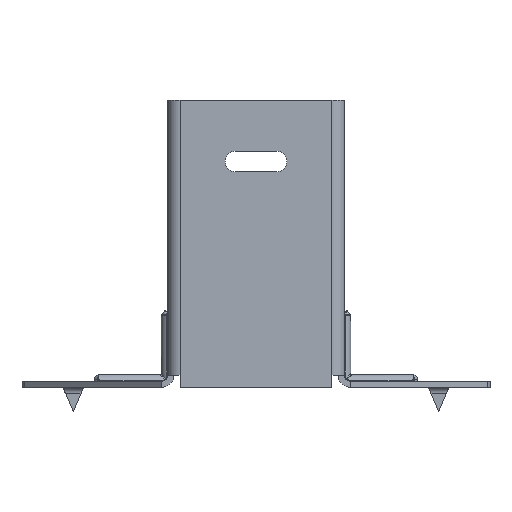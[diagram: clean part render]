
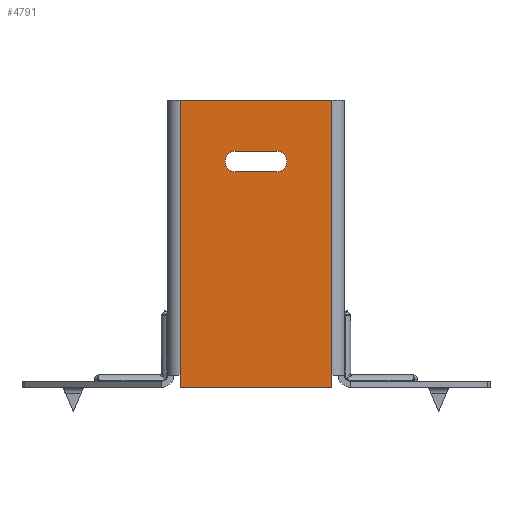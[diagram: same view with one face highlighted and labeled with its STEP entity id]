
A CAD part, front view. The second image highlights one B-rep face of the part: STEP entity #4791.
In plain terms, the highlighted planar face has unit normal (0, -1, 0).
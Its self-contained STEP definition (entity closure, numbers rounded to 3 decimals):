
#390 = VECTOR ( 'NONE', #18092, 1000. ) ;
#1010 = FACE_OUTER_BOUND ( 'NONE', #10950, .T. ) ;
#1103 = CARTESIAN_POINT ( 'NONE',  ( -5., 0., -12.5 ) ) ;
#1316 = VECTOR ( 'NONE', #3700, 1000. ) ;
#1495 = ORIENTED_EDGE ( 'NONE', *, *, #20276, .T. ) ;
#1789 = ORIENTED_EDGE ( 'NONE', *, *, #5269, .T. ) ;
#3281 = FACE_BOUND ( 'NONE', #10636, .T. ) ;
#3385 = DIRECTION ( 'NONE',  ( 0., 0., -1. ) ) ;
#3700 = DIRECTION ( 'NONE',  ( 0., 0., 1. ) ) ;
#3872 = DIRECTION ( 'NONE',  ( 0., 0., 1. ) ) ;
#4229 = EDGE_CURVE ( 'NONE', #21006, #12294, #21936, .T. ) ;
#4369 = PLANE ( 'NONE',  #18022 ) ;
#4791 = ADVANCED_FACE ( 'NONE', ( #3281, #1010 ), #4369, .F. ) ;
#4837 = CARTESIAN_POINT ( 'NONE',  ( 18.5, 0., -70. ) ) ;
#5264 = LINE ( 'NONE', #5712, #1316 ) ;
#5269 = EDGE_CURVE ( 'NONE', #21363, #6802, #6309, .T. ) ;
#5712 = CARTESIAN_POINT ( 'NONE',  ( 18.5, 0., -70. ) ) ;
#5726 = CIRCLE ( 'NONE', #19817, 2.5 ) ;
#5785 = VECTOR ( 'NONE', #3385, 1000. ) ;
#5849 = VECTOR ( 'NONE', #22425, 1000. ) ;
#6005 = EDGE_CURVE ( 'NONE', #6802, #10067, #5726, .T. ) ;
#6212 = CARTESIAN_POINT ( 'NONE',  ( 5., 0., -17.5 ) ) ;
#6309 = LINE ( 'NONE', #1103, #13820 ) ;
#6403 = CARTESIAN_POINT ( 'NONE',  ( 5., 0., -15. ) ) ;
#6802 = VERTEX_POINT ( 'NONE', #16351 ) ;
#7023 = EDGE_CURVE ( 'NONE', #19875, #21363, #22710, .T. ) ;
#7215 = VECTOR ( 'NONE', #3872, 1000. ) ;
#7965 = EDGE_CURVE ( 'NONE', #22043, #8361, #12933, .T. ) ;
#8361 = VERTEX_POINT ( 'NONE', #19086 ) ;
#9016 = CARTESIAN_POINT ( 'NONE',  ( 18.5, 0., -70. ) ) ;
#9198 = VECTOR ( 'NONE', #14684, 1000. ) ;
#9342 = CARTESIAN_POINT ( 'NONE',  ( 0., 0., 0. ) ) ;
#9790 = CARTESIAN_POINT ( 'NONE',  ( -18.5, 0., -67. ) ) ;
#9900 = ORIENTED_EDGE ( 'NONE', *, *, #13131, .T. ) ;
#10067 = VERTEX_POINT ( 'NONE', #6212 ) ;
#10135 = ORIENTED_EDGE ( 'NONE', *, *, #4229, .T. ) ;
#10636 = EDGE_LOOP ( 'NONE', ( #12031, #15057, #1789, #14624 ) ) ;
#10862 = CARTESIAN_POINT ( 'NONE',  ( -18.5, 0., 0. ) ) ;
#10950 = EDGE_LOOP ( 'NONE', ( #10135, #1495, #11821, #9900, #13776, #18484 ) ) ;
#11821 = ORIENTED_EDGE ( 'NONE', *, *, #7965, .F. ) ;
#11935 = CARTESIAN_POINT ( 'NONE',  ( -5., 0., -17.5 ) ) ;
#11973 = LINE ( 'NONE', #22492, #5849 ) ;
#12031 = ORIENTED_EDGE ( 'NONE', *, *, #20714, .T. ) ;
#12294 = VERTEX_POINT ( 'NONE', #9790 ) ;
#12576 = CARTESIAN_POINT ( 'NONE',  ( -20., 0., -70. ) ) ;
#12933 = LINE ( 'NONE', #12576, #390 ) ;
#13068 = LINE ( 'NONE', #14912, #19465 ) ;
#13131 = EDGE_CURVE ( 'NONE', #22043, #13908, #22264, .T. ) ;
#13676 = VERTEX_POINT ( 'NONE', #20025 ) ;
#13776 = ORIENTED_EDGE ( 'NONE', *, *, #22225, .T. ) ;
#13820 = VECTOR ( 'NONE', #22665, 1000. ) ;
#13908 = VERTEX_POINT ( 'NONE', #20717 ) ;
#13935 = LINE ( 'NONE', #10862, #9198 ) ;
#14624 = ORIENTED_EDGE ( 'NONE', *, *, #6005, .T. ) ;
#14684 = DIRECTION ( 'NONE',  ( 0., 0., -1. ) ) ;
#14794 = DIRECTION ( 'NONE',  ( 0., 1., 0. ) ) ;
#14912 = CARTESIAN_POINT ( 'NONE',  ( -20., 0., 0. ) ) ;
#15057 = ORIENTED_EDGE ( 'NONE', *, *, #7023, .T. ) ;
#15673 = AXIS2_PLACEMENT_3D ( 'NONE', #16243, #21768, #18243 ) ;
#16243 = CARTESIAN_POINT ( 'NONE',  ( -5., 0., -15. ) ) ;
#16351 = CARTESIAN_POINT ( 'NONE',  ( 5., 0., -12.5 ) ) ;
#16843 = DIRECTION ( 'NONE',  ( 0., 0., 1. ) ) ;
#16922 = DIRECTION ( 'NONE',  ( 0., 1., 0. ) ) ;
#18022 = AXIS2_PLACEMENT_3D ( 'NONE', #9342, #14794, #18347 ) ;
#18092 = DIRECTION ( 'NONE',  ( -1., 0., 0. ) ) ;
#18243 = DIRECTION ( 'NONE',  ( 0., 0., 1. ) ) ;
#18347 = DIRECTION ( 'NONE',  ( 0., 0., 1. ) ) ;
#18465 = DIRECTION ( 'NONE',  ( 1., 0., 0. ) ) ;
#18484 = ORIENTED_EDGE ( 'NONE', *, *, #21482, .F. ) ;
#19086 = CARTESIAN_POINT ( 'NONE',  ( -18.5, 0., -70. ) ) ;
#19454 = CARTESIAN_POINT ( 'NONE',  ( -18.5, 0., 0. ) ) ;
#19465 = VECTOR ( 'NONE', #18465, 1000. ) ;
#19817 = AXIS2_PLACEMENT_3D ( 'NONE', #6403, #16922, #16843 ) ;
#19875 = VERTEX_POINT ( 'NONE', #11935 ) ;
#20025 = CARTESIAN_POINT ( 'NONE',  ( 18.5, 0., 0. ) ) ;
#20276 = EDGE_CURVE ( 'NONE', #12294, #8361, #13935, .T. ) ;
#20714 = EDGE_CURVE ( 'NONE', #10067, #19875, #11973, .T. ) ;
#20717 = CARTESIAN_POINT ( 'NONE',  ( 18.5, 0., -67. ) ) ;
#20956 = CARTESIAN_POINT ( 'NONE',  ( -18.5, 0., 0. ) ) ;
#21006 = VERTEX_POINT ( 'NONE', #19454 ) ;
#21363 = VERTEX_POINT ( 'NONE', #23058 ) ;
#21482 = EDGE_CURVE ( 'NONE', #21006, #13676, #13068, .T. ) ;
#21768 = DIRECTION ( 'NONE',  ( 0., 1., 0. ) ) ;
#21936 = LINE ( 'NONE', #20956, #5785 ) ;
#22043 = VERTEX_POINT ( 'NONE', #4837 ) ;
#22225 = EDGE_CURVE ( 'NONE', #13908, #13676, #5264, .T. ) ;
#22264 = LINE ( 'NONE', #9016, #7215 ) ;
#22425 = DIRECTION ( 'NONE',  ( -1., 0., 0. ) ) ;
#22492 = CARTESIAN_POINT ( 'NONE',  ( -5., 0., -17.5 ) ) ;
#22665 = DIRECTION ( 'NONE',  ( 1., 0., 0. ) ) ;
#22710 = CIRCLE ( 'NONE', #15673, 2.5 ) ;
#23058 = CARTESIAN_POINT ( 'NONE',  ( -5., 0., -12.5 ) ) ;
